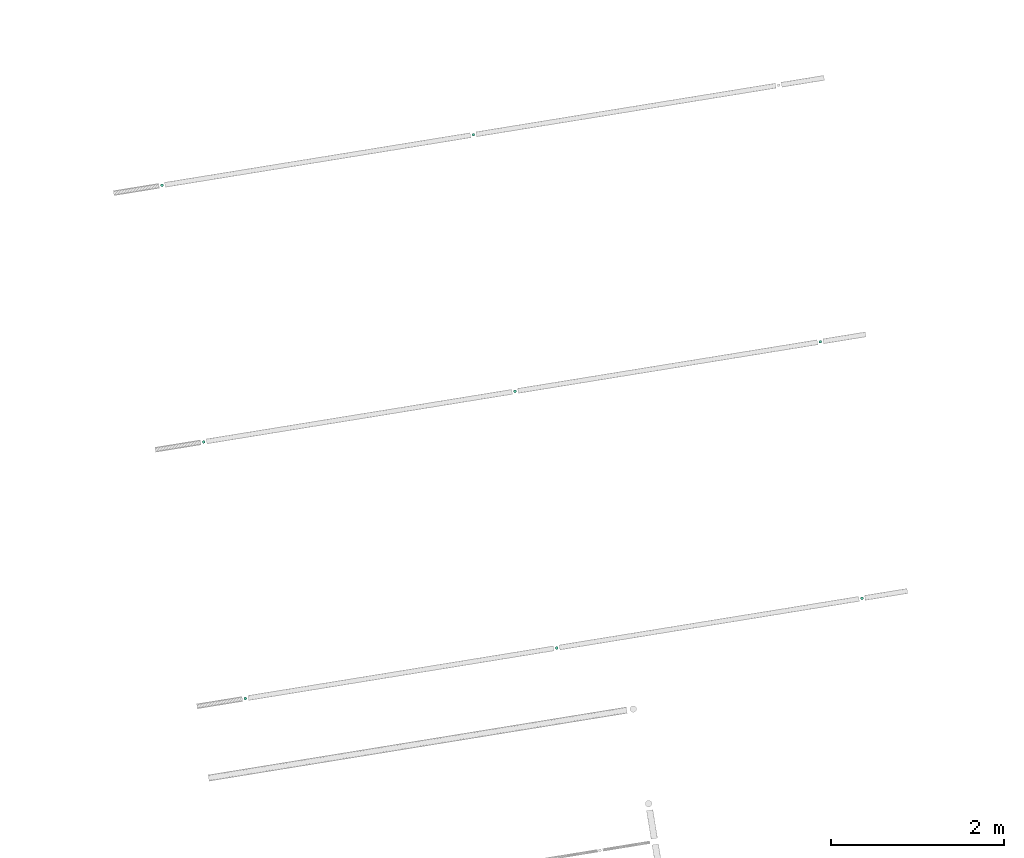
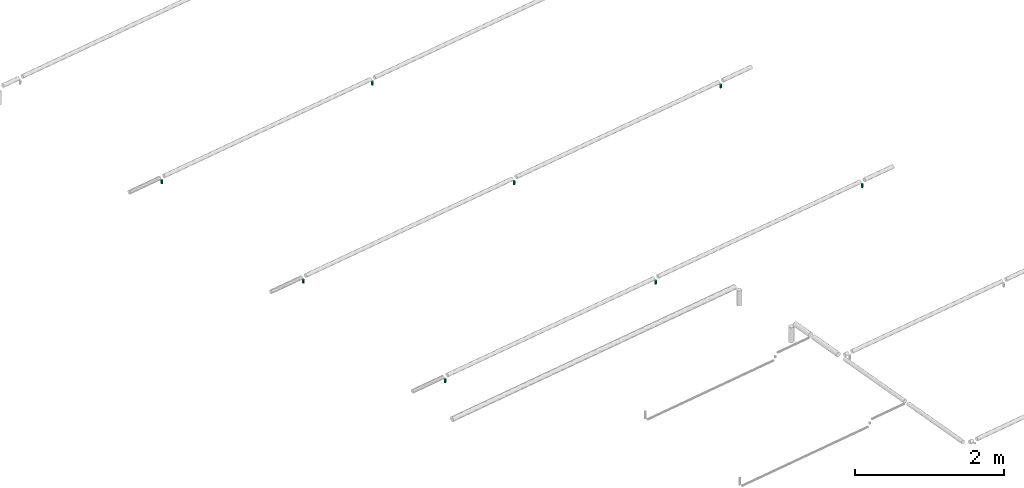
# One storey, part 6 of 10: 8 flow segments.
"""IFC2X3 building model written with IfcOpenShell, lengths in millimetres."""

from ifc_helpers import new_model, entity, si_unit, converted_unit, derived_unit, direction, frame, origin, origin_with_axes, origin_2d_with_axis, place, context, subcontext, project, spatial, circle, extrude, type_object, element, save


model = new_model("IFC2X3")

# Units and contexts
plan_context = context("Plan", 3, precision=1e-05, world=origin_with_axes())
model_context = context("Model", 3, precision=0.01, world=origin(), true_north=direction((6.12323399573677e-17, 1.0)))
body_context = subcontext(model_context, "Body", "Model", "MODEL_VIEW")
ifc_project = project(units=[converted_unit("PLANEANGLEUNIT", "DEGREE", entity("IfcPositiveLengthMeasure", 0.0174532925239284), si_unit("PLANEANGLEUNIT", "RADIAN"), dimensions=[0, 0, 0, 0, 0, 0, 0]), si_unit("AREAUNIT", "SQUARE_METRE"), si_unit("LENGTHUNIT", "METRE", prefix="MILLI"), si_unit("MASSUNIT", "GRAM", prefix="KILO"), si_unit("POWERUNIT", "WATT"), si_unit("PRESSUREUNIT", "PASCAL", prefix="KILO"), si_unit("FORCEUNIT", "NEWTON", prefix="KILO"), si_unit("ELECTRICVOLTAGEUNIT", "VOLT"), si_unit("ELECTRICCURRENTUNIT", "AMPERE"), si_unit("THERMODYNAMICTEMPERATUREUNIT", "DEGREE_CELSIUS"), si_unit("TIMEUNIT", "SECOND"), si_unit("VOLUMEUNIT", "CUBIC_METRE"), derived_unit("LINEARVELOCITYUNIT", [(si_unit("LENGTHUNIT", "METRE"), 1), (si_unit("TIMEUNIT", "SECOND"), -1)]), derived_unit("VOLUMETRICFLOWRATEUNIT", [(si_unit("VOLUMEUNIT", "CUBIC_METRE"), 1), (si_unit("TIMEUNIT", "SECOND"), -1)]), derived_unit("THERMALTRANSMITTANCEUNIT", [(si_unit("POWERUNIT", "WATT"), 1), (si_unit("THERMODYNAMICTEMPERATUREUNIT", "KELVIN"), -1), (si_unit("AREAUNIT", "SQUARE_METRE"), -1)]), derived_unit("SOUNDPRESSUREUNIT", [(si_unit("PRESSUREUNIT", "PASCAL"), 1)])], contexts=[model_context, plan_context])

# Site, building, storey
site_placement = place(None, frame((-0.00071070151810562, 0.00438415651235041, 0.0), z_axis=(0.0, 0.0, 1.0), x_axis=(-0.160236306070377, 0.987078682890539, 0.0)))
site = spatial("IfcSite", under=ifc_project, at=site_placement, Name="Default", CompositionType="ELEMENT")
building_placement = place(site_placement, origin_with_axes())
building = spatial("IfcBuilding", under=site, at=building_placement, CompositionType="ELEMENT")
storey_placement = place(building_placement, frame((0.0, 0.0, 55630.0), z_axis=(0.0, 0.0, 1.0), x_axis=(1.0, 0.0, 0.0)))
storey = spatial("IfcBuildingStorey", under=building, at=storey_placement, Name="Nivå E", CompositionType="ELEMENT", Elevation=55630.0)

# Flow segments
pipe_segment_type = type_object("IfcPipeSegmentType", Name="Pipe Types:Stålrør normaltykke", PredefinedType="NOTDEFINED")
flow_segment_1_placement = place(storey_placement, origin_with_axes())
element("IfcFlowSegment", 1, at=flow_segment_1_placement, inside=storey, type_object=pipe_segment_type, Name="Pipe Types:Stålrør normaltykke", ObjectType="Pipe Types:Stålrør normaltykke", context=body_context, shape_type="SweptSolid", body=[
    extrude(circle(Radius=16.8500004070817, at=origin_2d_with_axis()), frame((772377.619644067, -508678.477242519, 2496.95200000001)), (0.0, 0.0, 1.0), 57.7479999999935),
])
flow_segment_2_placement = place(storey_placement, origin_with_axes())
element("IfcFlowSegment", 2, at=flow_segment_2_placement, inside=storey, type_object=pipe_segment_type, Name="Pipe Types:Stålrør normaltykke", ObjectType="Pipe Types:Stålrør normaltykke", context=body_context, shape_type="SweptSolid", body=[
    extrude(circle(Radius=16.8500004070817, at=origin_2d_with_axis()), frame((772377.619644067, -505108.477242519, 2496.95200000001)), (0.0, 0.0, 1.0), 57.7479999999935),
])
flow_segment_3_placement = place(storey_placement, origin_with_axes())
element("IfcFlowSegment", 3, at=flow_segment_3_placement, inside=storey, type_object=pipe_segment_type, Name="Pipe Types:Stålrør normaltykke", ObjectType="Pipe Types:Stålrør normaltykke", context=body_context, shape_type="SweptSolid", body=[
    extrude(circle(Radius=16.8500004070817, at=origin_2d_with_axis()), frame((772377.619644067, -501468.477242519, 2496.95200000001)), (0.0, 0.0, 1.0), 57.7479999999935),
])
flow_segment_4_placement = place(storey_placement, origin_with_axes())
element("IfcFlowSegment", 4, at=flow_segment_4_placement, inside=storey, type_object=pipe_segment_type, Name="Pipe Types:Stålrør normaltykke", ObjectType="Pipe Types:Stålrør normaltykke", context=body_context, shape_type="SweptSolid", body=[
    extrude(circle(Radius=16.8500004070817, at=origin_2d_with_axis()), frame((775377.619644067, -508678.477242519, 2496.95200000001)), (0.0, 0.0, 1.0), 57.7479999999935),
])
flow_segment_5_placement = place(storey_placement, origin_with_axes())
element("IfcFlowSegment", 5, at=flow_segment_5_placement, inside=storey, type_object=pipe_segment_type, Name="Pipe Types:Stålrør normaltykke", ObjectType="Pipe Types:Stålrør normaltykke", context=body_context, shape_type="SweptSolid", body=[
    extrude(circle(Radius=16.8500004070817, at=origin_2d_with_axis()), frame((775377.619644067, -505108.477242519, 2496.95200000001)), (0.0, 0.0, 1.0), 57.7479999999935),
])
flow_segment_6_placement = place(storey_placement, origin_with_axes())
element("IfcFlowSegment", 6, at=flow_segment_6_placement, inside=storey, type_object=pipe_segment_type, Name="Pipe Types:Stålrør normaltykke", ObjectType="Pipe Types:Stålrør normaltykke", context=body_context, shape_type="SweptSolid", body=[
    extrude(circle(Radius=16.8500004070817, at=origin_2d_with_axis()), frame((775377.619644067, -501468.477242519, 2496.95200000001)), (0.0, 0.0, 1.0), 57.7479999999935),
])
flow_segment_7_placement = place(storey_placement, origin_with_axes())
element("IfcFlowSegment", 7, at=flow_segment_7_placement, inside=storey, type_object=pipe_segment_type, Name="Pipe Types:Stålrør normaltykke", ObjectType="Pipe Types:Stålrør normaltykke", context=body_context, shape_type="SweptSolid", body=[
    extrude(circle(Radius=16.8500004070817, at=origin_2d_with_axis()), frame((778377.619644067, -505108.477242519, 2496.95200000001)), (0.0, 0.0, 1.0), 57.7479999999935),
])
flow_segment_8_placement = place(storey_placement, origin_with_axes())
element("IfcFlowSegment", 8, at=flow_segment_8_placement, inside=storey, type_object=pipe_segment_type, Name="Pipe Types:Stålrør normaltykke", ObjectType="Pipe Types:Stålrør normaltykke", context=body_context, shape_type="SweptSolid", body=[
    extrude(circle(Radius=16.8500004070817, at=origin_2d_with_axis()), frame((778377.619644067, -501468.477242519, 2496.95200000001)), (0.0, 0.0, 1.0), 57.7479999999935),
])

save(model, "model.ifc")
